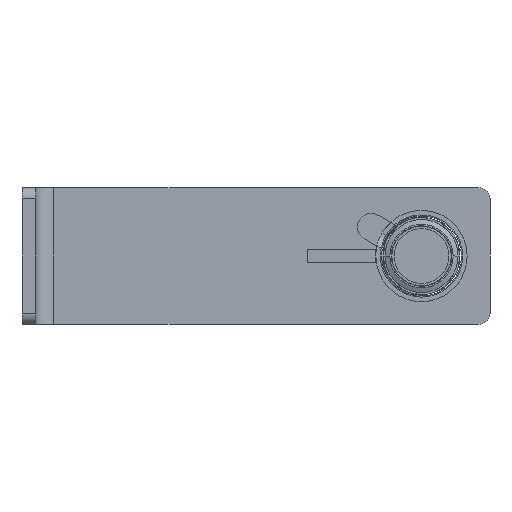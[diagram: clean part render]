
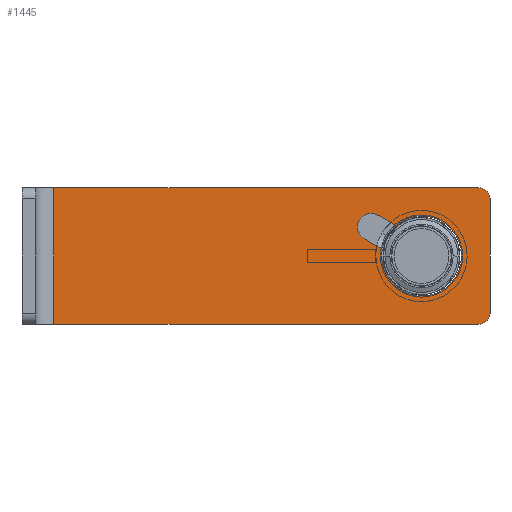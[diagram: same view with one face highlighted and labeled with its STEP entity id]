
A CAD part, front view. The second image highlights one B-rep face of the part: STEP entity #1445.
In plain terms, the highlighted planar face has unit normal (0, -1, 0) as drawn and (0, 1, 0) by its records, which use the part's own axes.
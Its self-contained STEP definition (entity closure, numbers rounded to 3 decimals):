
#113=CARTESIAN_POINT('',(194.,0.,-25.));
#114=DIRECTION('',(0.,1.,0.));
#115=DIRECTION('',(1.,0.,0.));
#116=AXIS2_PLACEMENT_3D('',#113,#114,#115);
#118=DIRECTION('',(0.,0.,-1.));
#119=VECTOR('',#118,50.);
#120=CARTESIAN_POINT('',(199.,0.,25.));
#121=LINE('',#120,#119);
#122=CARTESIAN_POINT('',(194.,0.,25.));
#123=DIRECTION('',(0.,-1.,0.));
#124=DIRECTION('',(1.,0.,0.));
#125=AXIS2_PLACEMENT_3D('',#122,#123,#124);
#127=CARTESIAN_POINT('',(146.916,0.,-12.75));
#128=DIRECTION('',(0.,1.,0.));
#129=DIRECTION('',(0.5,0.,-0.866));
#130=AXIS2_PLACEMENT_3D('',#127,#128,#129);
#132=DIRECTION('',(-0.866,0.,-0.5));
#133=VECTOR('',#132,9.061);
#134=CARTESIAN_POINT('',(151.763,0.,-3.023));
#135=LINE('',#134,#133);
#136=CARTESIAN_POINT('',(169.,0.,0.));
#137=DIRECTION('',(0.,1.,0.));
#138=DIRECTION('',(-0.985,0.,-0.173));
#139=AXIS2_PLACEMENT_3D('',#136,#137,#138);
#141=DIRECTION('',(0.866,0.,0.5));
#142=VECTOR('',#141,9.061);
#143=CARTESIAN_POINT('',(149.916,0.,-17.946));
#144=LINE('',#143,#142);
#149=DIRECTION('',(-1.,0.,0.));
#150=VECTOR('',#149,186.077);
#151=CARTESIAN_POINT('',(194.,0.,-30.));
#152=LINE('',#151,#150);
#174=DIRECTION('',(0.,0.,-1.));
#175=VECTOR('',#174,60.);
#176=CARTESIAN_POINT('',(7.923,0.,30.));
#177=LINE('',#176,#175);
#247=DIRECTION('',(-1.,0.,0.));
#248=VECTOR('',#247,186.077);
#249=CARTESIAN_POINT('',(194.,0.,30.));
#250=LINE('',#249,#248);
#1185=CARTESIAN_POINT('',(7.923,0.,30.));
#1186=CARTESIAN_POINT('',(7.923,0.,-30.));
#1187=VERTEX_POINT('',#1185);
#1188=VERTEX_POINT('',#1186);
#1205=CARTESIAN_POINT('',(199.,0.,-25.));
#1206=CARTESIAN_POINT('',(194.,0.,-30.));
#1207=VERTEX_POINT('',#1205);
#1208=VERTEX_POINT('',#1206);
#1213=CARTESIAN_POINT('',(199.,0.,25.));
#1214=CARTESIAN_POINT('',(194.,0.,30.));
#1215=VERTEX_POINT('',#1213);
#1216=VERTEX_POINT('',#1214);
#1237=CARTESIAN_POINT('',(149.916,0.,-17.946));
#1238=CARTESIAN_POINT('',(143.916,0.,-7.554));
#1239=VERTEX_POINT('',#1237);
#1240=VERTEX_POINT('',#1238);
#1241=CARTESIAN_POINT('',(157.763,0.,-13.416));
#1242=VERTEX_POINT('',#1241);
#1243=CARTESIAN_POINT('',(151.763,0.,-3.023));
#1244=VERTEX_POINT('',#1243);
#1416=CARTESIAN_POINT('',(199.,0.,30.));
#1417=DIRECTION('',(0.,1.,0.));
#1418=DIRECTION('',(-1.,0.,0.));
#1419=AXIS2_PLACEMENT_3D('',#1416,#1417,#1418);
#1420=PLANE('',#1419);
#1422=ORIENTED_EDGE('',*,*,#1421,.F.);
#1424=ORIENTED_EDGE('',*,*,#1423,.F.);
#1426=ORIENTED_EDGE('',*,*,#1425,.T.);
#1428=ORIENTED_EDGE('',*,*,#1427,.T.);
#1430=ORIENTED_EDGE('',*,*,#1429,.T.);
#1432=ORIENTED_EDGE('',*,*,#1431,.F.);
#1433=EDGE_LOOP('',(#1422,#1424,#1426,#1428,#1430,#1432));
#1434=FACE_OUTER_BOUND('',#1433,.F.);
#1436=ORIENTED_EDGE('',*,*,#1435,.T.);
#1438=ORIENTED_EDGE('',*,*,#1437,.F.);
#1440=ORIENTED_EDGE('',*,*,#1439,.T.);
#1442=ORIENTED_EDGE('',*,*,#1441,.F.);
#1443=EDGE_LOOP('',(#1436,#1438,#1440,#1442));
#1444=FACE_BOUND('',#1443,.F.);
#117=CIRCLE('',#116,5.);
#126=CIRCLE('',#125,5.);
#131=CIRCLE('',#130,6.);
#140=CIRCLE('',#139,17.5);
#1421=EDGE_CURVE('',#1207,#1208,#117,.T.);
#1423=EDGE_CURVE('',#1215,#1207,#121,.T.);
#1425=EDGE_CURVE('',#1215,#1216,#126,.T.);
#1427=EDGE_CURVE('',#1216,#1187,#250,.T.);
#1429=EDGE_CURVE('',#1187,#1188,#177,.T.);
#1431=EDGE_CURVE('',#1208,#1188,#152,.T.);
#1435=EDGE_CURVE('',#1239,#1240,#131,.T.);
#1437=EDGE_CURVE('',#1244,#1240,#135,.T.);
#1439=EDGE_CURVE('',#1244,#1242,#140,.T.);
#1441=EDGE_CURVE('',#1239,#1242,#144,.T.);
#1445=ADVANCED_FACE('',(#1434,#1444),#1420,.T.);
